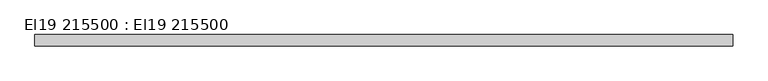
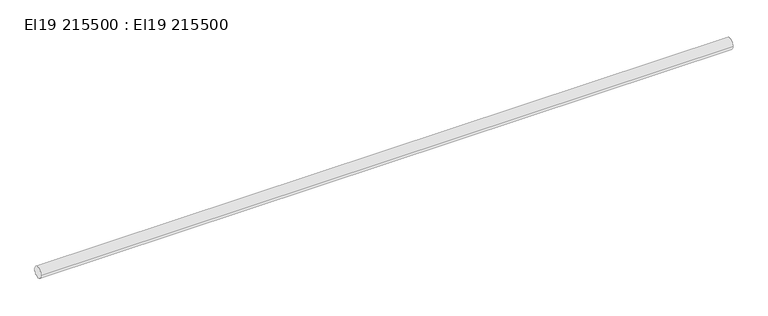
"""IFC4 building model written with IfcOpenShell, lengths in millimetres: cable carrier segment geometry, El19 215500 : El19 215500."""

from ifc_helpers import new_model, si_unit, point, frame, frame_2d, origin, place, context, project, spatial, circle_curve, trimmed, segment, composite_curve, outline, extrude, source, transform, mapped, element, save


def el19_215500_el19_215500_0e88c8d9(model_context):
    return source(origin(), model_context, "Body", "SweptSolid", [
        extrude(outline(composite_curve([segment(trimmed(circle_curve(frame_2d((17022.1, 4200.0)), 9.5), [point((17012.6, 4200.0))], [point((17031.6, 4200.0))], False, "CARTESIAN"), True, "CONTINUOUS"), segment(trimmed(circle_curve(frame_2d((17022.1, 4200.0)), 9.5), [point((17031.6, 4200.0))], [point((17012.6, 4200.0))], False, "CARTESIAN"), True, "CONTINUOUS")], self_intersect=False)), frame((17305.003, 0.0, 0.0), z_axis=(1.0, 0.0, 0.0), x_axis=(0.0, 1.0, 0.0)), (0.0, 0.0, 1.0), 1177.99),
    ])


if __name__ == "__main__":
    model = new_model("IFC4")
    model_context = context("Model", 3, world=origin())
    ifc_project = project(units=[si_unit("LENGTHUNIT", "METRE", prefix="MILLI")], contexts=[model_context])
    site = spatial("IfcSite", under=ifc_project)
    building = spatial("IfcBuilding", under=site)
    placement = place(None, origin())
    el19_215500_el19_215500_shape = el19_215500_el19_215500_0e88c8d9(model_context)
    element("IfcCableCarrierSegment", 1, ObjectType="El19 215500 : El19 215500", at=placement, inside=building, context=model_context, shape_type="MappedRepresentation", body=[
        mapped(el19_215500_el19_215500_shape, transform((0.0, 0.0, 0.0), x_axis=(1.0, 0.0, 0.0), y_axis=(0.0, 1.0, 0.0), z_axis=(0.0, 0.0, 1.0))),
    ])
    save(model, "model.ifc")
